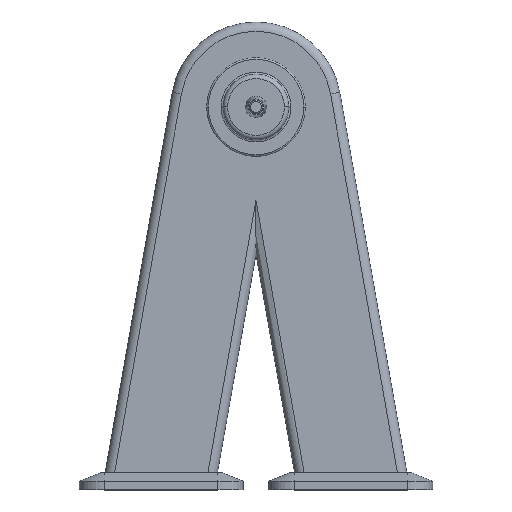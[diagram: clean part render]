
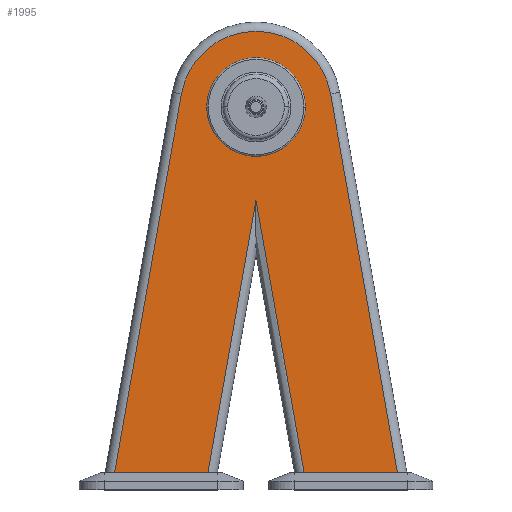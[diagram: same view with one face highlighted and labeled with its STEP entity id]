
A CAD part, top view. The second image highlights one B-rep face of the part: STEP entity #1995.
In plain terms, the highlighted planar face has unit normal (0, 0, 1).
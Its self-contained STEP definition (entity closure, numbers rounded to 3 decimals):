
#102 = VERTEX_POINT ( 'NONE', #3297 ) ;
#178 = AXIS2_PLACEMENT_3D ( 'NONE', #672, #3009, #1030 ) ;
#207 = EDGE_CURVE ( 'NONE', #102, #2741, #3305, .T. ) ;
#221 = DIRECTION ( 'NONE',  ( -0.174, -0.985, 0. ) ) ;
#337 = DIRECTION ( 'NONE',  ( -1., 0., 0. ) ) ;
#426 = VERTEX_POINT ( 'NONE', #3485 ) ;
#443 = PLANE ( 'NONE',  #1052 ) ;
#463 = CIRCLE ( 'NONE', #3690, 58. ) ;
#672 = CARTESIAN_POINT ( 'NONE',  ( 0., 450., 63. ) ) ;
#728 = DIRECTION ( 'NONE',  ( 0., 0., 1. ) ) ;
#730 = LINE ( 'NONE', #1391, #1517 ) ;
#742 = CARTESIAN_POINT ( 'NONE',  ( 62.64, -14.664, 63. ) ) ;
#764 = EDGE_CURVE ( 'NONE', #426, #3881, #3457, .T. ) ;
#786 = DIRECTION ( 'NONE',  ( 1., 0., 0. ) ) ;
#840 = VECTOR ( 'NONE', #1761, 1000. ) ;
#965 = VERTEX_POINT ( 'NONE', #2779 ) ;
#1030 = DIRECTION ( 'NONE',  ( 1., 0., 0. ) ) ;
#1052 = AXIS2_PLACEMENT_3D ( 'NONE', #3445, #2790, #786 ) ;
#1136 = AXIS2_PLACEMENT_3D ( 'NONE', #2731, #728, #3064 ) ;
#1148 = EDGE_CURVE ( 'NONE', #965, #2741, #3872, .T. ) ;
#1218 = ORIENTED_EDGE ( 'NONE', *, *, #3499, .T. ) ;
#1225 = ORIENTED_EDGE ( 'NONE', *, *, #1911, .T. ) ;
#1330 = ORIENTED_EDGE ( 'NONE', *, *, #207, .F. ) ;
#1391 = CARTESIAN_POINT ( 'NONE',  ( -10.833, 279.147, 63. ) ) ;
#1517 = VECTOR ( 'NONE', #2385, 1000. ) ;
#1533 = VECTOR ( 'NONE', #2343, 1000. ) ;
#1761 = DIRECTION ( 'NONE',  ( 0.174, -0.985, 0. ) ) ;
#1863 = CARTESIAN_POINT ( 'NONE',  ( -166.194, 20., 63. ) ) ;
#1889 = CARTESIAN_POINT ( 'NONE',  ( -171.115, -7.91, 63. ) ) ;
#1911 = EDGE_CURVE ( 'NONE', #2947, #965, #2816, .T. ) ;
#1994 = CARTESIAN_POINT ( 'NONE',  ( 0., 450., 63. ) ) ;
#1995 = ADVANCED_FACE ( 'NONE', ( #3287, #4284 ), #443, .T. ) ;
#2015 = DIRECTION ( 'NONE',  ( -0.174, 0.985, 0. ) ) ;
#2142 = VECTOR ( 'NONE', #337, 1000. ) ;
#2331 = DIRECTION ( 'NONE',  ( 1., 0., 0. ) ) ;
#2343 = DIRECTION ( 'NONE',  ( -1., 0., 0. ) ) ;
#2360 = VERTEX_POINT ( 'NONE', #3288 ) ;
#2385 = DIRECTION ( 'NONE',  ( 0.174, 0.985, 0. ) ) ;
#2434 = EDGE_CURVE ( 'NONE', #2360, #2947, #4178, .T. ) ;
#2636 = CARTESIAN_POINT ( 'NONE',  ( 58., 450., 63. ) ) ;
#2668 = CARTESIAN_POINT ( 'NONE',  ( 87.648, 465.455, 63. ) ) ;
#2721 = LINE ( 'NONE', #742, #840 ) ;
#2731 = CARTESIAN_POINT ( 'NONE',  ( 0., 450., 63. ) ) ;
#2741 = VERTEX_POINT ( 'NONE', #1863 ) ;
#2760 = ORIENTED_EDGE ( 'NONE', *, *, #764, .F. ) ;
#2779 = CARTESIAN_POINT ( 'NONE',  ( -87.648, 465.455, 63. ) ) ;
#2790 = DIRECTION ( 'NONE',  ( 0., 0., 1. ) ) ;
#2816 = CIRCLE ( 'NONE', #1136, 89. ) ;
#2893 = VERTEX_POINT ( 'NONE', #4295 ) ;
#2941 = ORIENTED_EDGE ( 'NONE', *, *, #3383, .F. ) ;
#2947 = VERTEX_POINT ( 'NONE', #2668 ) ;
#2964 = EDGE_CURVE ( 'NONE', #2360, #4293, #4033, .T. ) ;
#2981 = ORIENTED_EDGE ( 'NONE', *, *, #2434, .T. ) ;
#3009 = DIRECTION ( 'NONE',  ( 0., 0., 1. ) ) ;
#3047 = ORIENTED_EDGE ( 'NONE', *, *, #2964, .F. ) ;
#3055 = ORIENTED_EDGE ( 'NONE', *, *, #1148, .T. ) ;
#3064 = DIRECTION ( 'NONE',  ( 1., 0., 0. ) ) ;
#3287 = FACE_BOUND ( 'NONE', #4352, .T. ) ;
#3288 = CARTESIAN_POINT ( 'NONE',  ( 166.194, 20., 63. ) ) ;
#3297 = CARTESIAN_POINT ( 'NONE',  ( -56.527, 20., 63. ) ) ;
#3305 = LINE ( 'NONE', #4357, #1533 ) ;
#3341 = CARTESIAN_POINT ( 'NONE',  ( 0., 20., 63. ) ) ;
#3383 = EDGE_CURVE ( 'NONE', #3881, #426, #463, .T. ) ;
#3445 = CARTESIAN_POINT ( 'NONE',  ( 0., 450., 63. ) ) ;
#3457 = CIRCLE ( 'NONE', #178, 58. ) ;
#3485 = CARTESIAN_POINT ( 'NONE',  ( -58., 450., 63. ) ) ;
#3499 = EDGE_CURVE ( 'NONE', #2893, #4293, #2721, .T. ) ;
#3535 = CARTESIAN_POINT ( 'NONE',  ( 56.527, 20., 63. ) ) ;
#3631 = ORIENTED_EDGE ( 'NONE', *, *, #4032, .T. ) ;
#3690 = AXIS2_PLACEMENT_3D ( 'NONE', #1994, #4333, #2331 ) ;
#3770 = VECTOR ( 'NONE', #221, 1000. ) ;
#3872 = LINE ( 'NONE', #1889, #3770 ) ;
#3881 = VERTEX_POINT ( 'NONE', #2636 ) ;
#3949 = EDGE_LOOP ( 'NONE', ( #1330, #3631, #1218, #3047, #2981, #1225, #3055 ) ) ;
#4016 = CARTESIAN_POINT ( 'NONE',  ( 87.648, 465.455, 63. ) ) ;
#4032 = EDGE_CURVE ( 'NONE', #102, #2893, #730, .T. ) ;
#4033 = LINE ( 'NONE', #3341, #2142 ) ;
#4178 = LINE ( 'NONE', #4016, #4278 ) ;
#4278 = VECTOR ( 'NONE', #2015, 1000. ) ;
#4284 = FACE_OUTER_BOUND ( 'NONE', #3949, .T. ) ;
#4293 = VERTEX_POINT ( 'NONE', #3535 ) ;
#4295 = CARTESIAN_POINT ( 'NONE',  ( 0., 340.583, 63. ) ) ;
#4333 = DIRECTION ( 'NONE',  ( 0., 0., 1. ) ) ;
#4352 = EDGE_LOOP ( 'NONE', ( #2760, #2941 ) ) ;
#4357 = CARTESIAN_POINT ( 'NONE',  ( 0., 20., 63. ) ) ;
